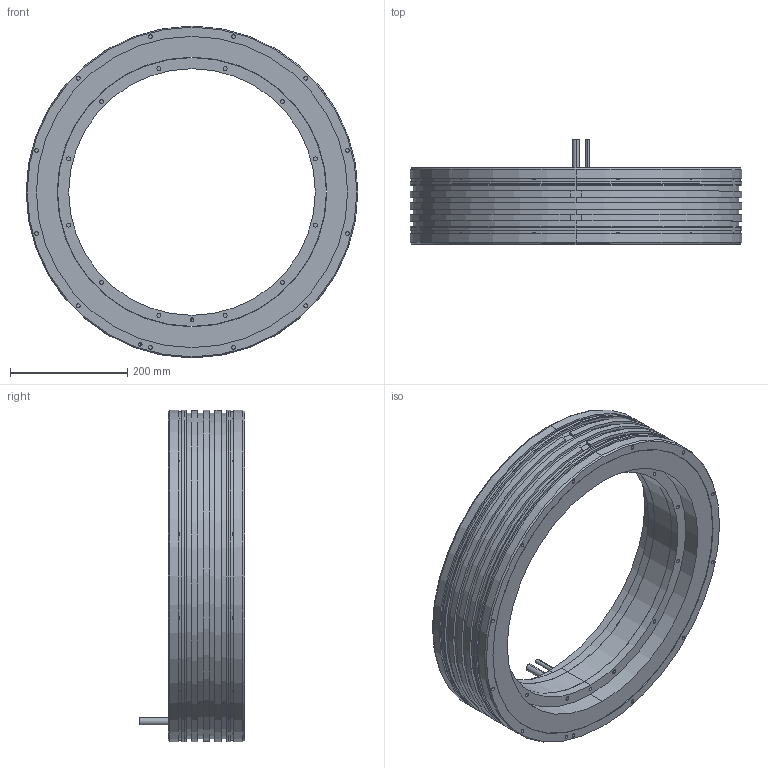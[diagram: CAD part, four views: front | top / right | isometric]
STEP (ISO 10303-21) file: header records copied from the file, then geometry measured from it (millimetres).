
FILE_DESCRIPTION (( 'STEP AP203' ), '1' );
FILE_NAME ('TM-2-G7.STEP', '2021-07-06T08:45:17', ( '' ), ( '' ), 'SwSTEP 2.0', 'SolidWorks 2015', '' );
FILE_SCHEMA (( 'CONFIG_CONTROL_DESIGN' ));
Length unit declared in the file: millimetre
Products named in the file (3): TM-2-GX_rotor_TM-2-G7_rotor; TM-2-GX_stator_TM-2-G7_stator; TM-2-G7
Assembly tree (2 placements, depth 2):
  TM-2-G7
    TM-2-GX_stator_TM-2-G7_stator
    TM-2-GX_rotor_TM-2-G7_rotor
Bounding box: 565 x 179 x 565 mm (x, y, z)
Volume: 12380988.2 mm3; surface area: 945603.9 mm2
Topology: 2 solids, 2 shells, 246 faces, 514 edges, 328 vertices
Faces by surface type: cylinder 151, plane 79, cone 16
Entity records: 6925 total; most frequent: DIRECTION 1314, CARTESIAN_POINT 1085, ORIENTED_EDGE 1012, AXIS2_PLACEMENT_3D 557, EDGE_CURVE 506, VERTEX_POINT 328, EDGE_LOOP 314, CIRCLE 306
